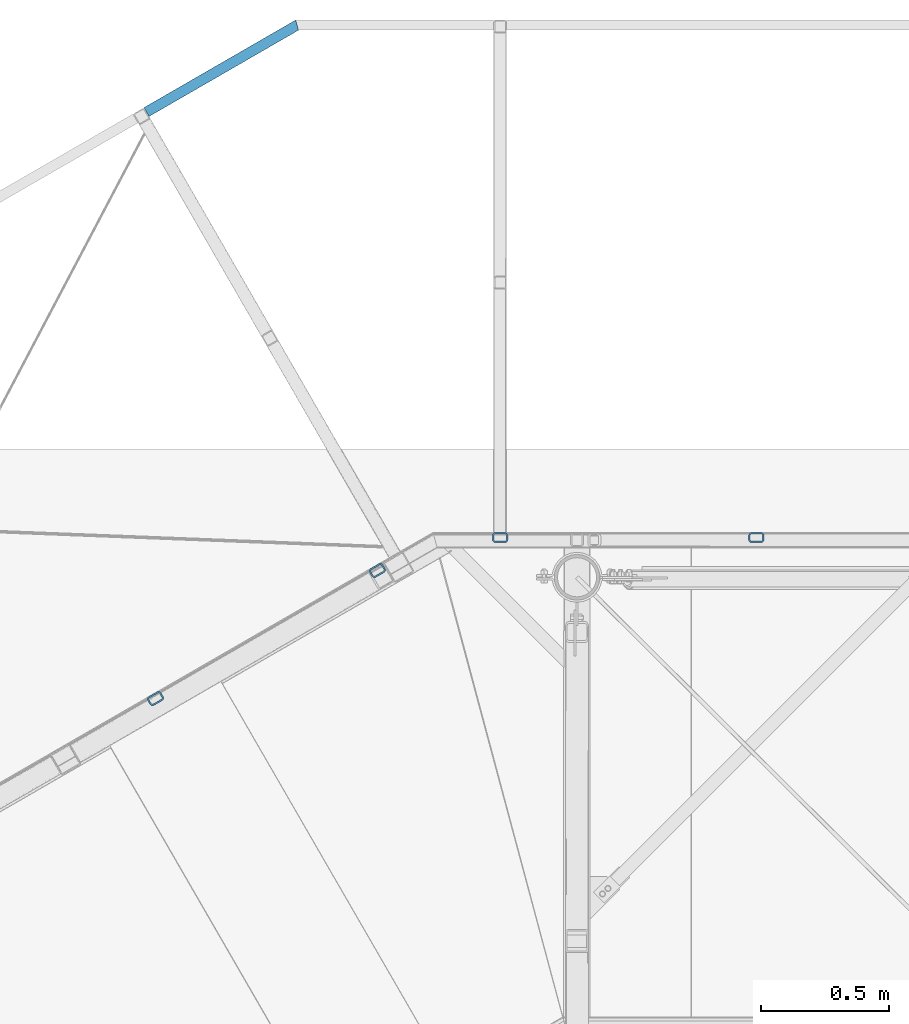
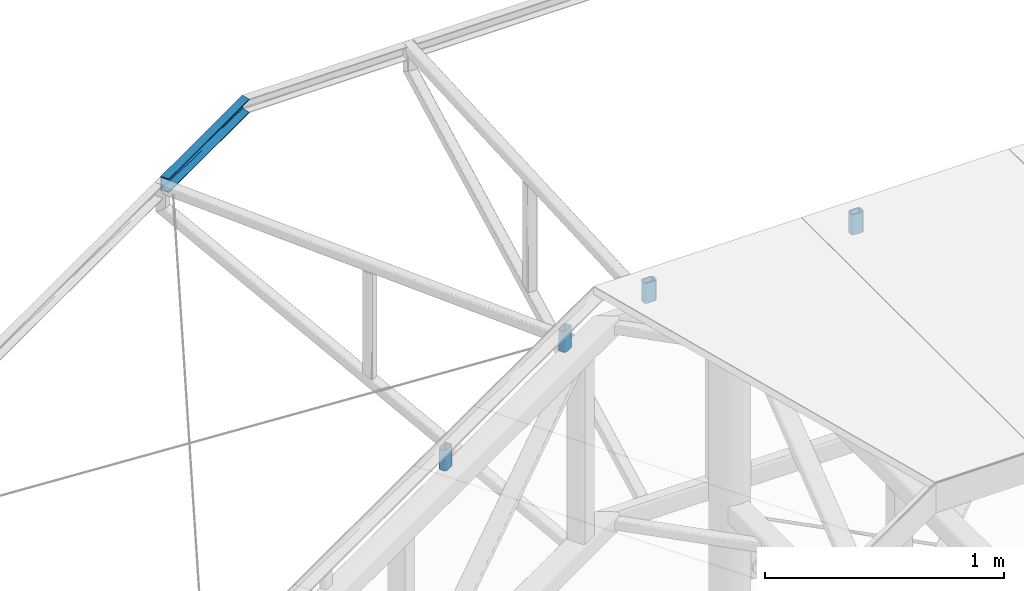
# One storey, part 27 of 132: 5 beams, 5 elements without a shape of their own.
"""IFC2X3 building model written with IfcOpenShell, lengths in millimetres."""

from ifc_helpers import new_model, si_unit, frame, origin_with_axes, origin_2d_with_axis, place, context, subcontext, project, spatial, hollow_rectangle, u_section, extrude, clip, halfspace, material, type_object, element, aggregate, save


model = new_model("IFC2X3")

# Units and contexts
model_context = context("Model", 3, precision=1e-05, world=origin_with_axes())
body_context = subcontext(model_context, "Body", "Model", "MODEL_VIEW")
ifc_project = project(units=[si_unit("LENGTHUNIT", "METRE", prefix="MILLI"), si_unit("AREAUNIT", "SQUARE_METRE"), si_unit("VOLUMEUNIT", "CUBIC_METRE"), si_unit("MASSUNIT", "GRAM", prefix="KILO"), si_unit("TIMEUNIT", "SECOND"), si_unit("PLANEANGLEUNIT", "RADIAN"), si_unit("SOLIDANGLEUNIT", "STERADIAN"), si_unit("THERMODYNAMICTEMPERATUREUNIT", "DEGREE_CELSIUS"), si_unit("LUMINOUSINTENSITYUNIT", "LUMEN")], contexts=[model_context])

# Site, building, storey
site_placement = place(None, origin_with_axes())
site = spatial("IfcSite", under=ifc_project, at=site_placement, Name="Budowa", CompositionType="ELEMENT")
building_placement = place(site_placement, origin_with_axes())
building = spatial("IfcBuilding", under=site, at=building_placement, Name="Undefined", CompositionType="ELEMENT")
storey_placement = place(building_placement, origin_with_axes())
storey = spatial("IfcBuildingStorey", under=building, at=storey_placement, Name="Undefined", CompositionType="ELEMENT", Elevation=0.0)

# Assembly, beam
assembly_1_placement = place(storey_placement, origin_with_axes())
assembly_1 = element("IfcElementAssembly", 1, at=assembly_1_placement, inside=storey, Name="Steel Assembly", AssemblyPlace="NOTDEFINED", PredefinedType="RIGID_FRAME")
ifc_material = material(Name="STEEL/S235")
beam_type_1 = type_object("IfcBeamType", Name="RHS60*40*6", PredefinedType="NOTDEFINED")
beam_1_placement = place(assembly_1_placement, frame((8645.7680346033, 24026.6157937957, 13984.0000000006), z_axis=(0.866042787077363, 0.499969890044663, 0.0), x_axis=(0.0, 0.0, -1.0)))
beam_1 = element("IfcBeam", 2, at=beam_1_placement, type_object=beam_type_1, material=ifc_material, Name="BEAM", ObjectType="RHS60*40*6", context=body_context, shape_type="SweptSolid", body=[
    extrude(hollow_rectangle(XDim=40.0, YDim=60.0, WallThickness=6.0, InnerFilletRadius=6.0, OuterFilletRadius=12.0, at=origin_2d_with_axis()), frame((103.988921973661, 0.0, 0.0), z_axis=(-1.0, 0.0, 0.0), x_axis=(0.0, -1.0, 0.0)), (0.0, 0.0, 1.0), 103.99),
])
aggregate(assembly_1, [beam_1])

assembly_2_placement = place(storey_placement, origin_with_axes())
assembly_2 = element("IfcElementAssembly", 3, at=assembly_2_placement, inside=storey, Name="Steel Assembly", AssemblyPlace="NOTDEFINED", PredefinedType="RIGID_FRAME")
beam_2_placement = place(assembly_2_placement, frame((7779.72524758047, 23526.6459036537, 13984.0000000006), z_axis=(0.866042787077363, 0.499969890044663, 0.0), x_axis=(0.0, 0.0, -1.0)))
beam_2 = element("IfcBeam", 4, at=beam_2_placement, type_object=beam_type_1, material=ifc_material, Name="BEAM", ObjectType="RHS60*40*6", context=body_context, shape_type="SweptSolid", body=[
    extrude(hollow_rectangle(XDim=40.0, YDim=60.0, WallThickness=6.0, InnerFilletRadius=6.0, OuterFilletRadius=12.0, at=origin_2d_with_axis()), frame((103.988921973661, 0.0, 0.0), z_axis=(-1.0, 0.0, 0.0), x_axis=(0.0, -1.0, 0.0)), (0.0, 0.0, 1.0), 103.99),
])
aggregate(assembly_2, [beam_2])

assembly_3_placement = place(storey_placement, origin_with_axes())
assembly_3 = element("IfcElementAssembly", 5, at=assembly_3_placement, inside=storey, Name="Steel Assembly", AssemblyPlace="NOTDEFINED", PredefinedType="RIGID_FRAME")
beam_3_placement = place(assembly_3_placement, frame((9124.83823655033, 24154.8999999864, 13984.0000000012), z_axis=(1.0, 0.0, 0.0), x_axis=(0.0, 0.0, -1.0)))
beam_3 = element("IfcBeam", 6, at=beam_3_placement, type_object=beam_type_1, material=ifc_material, Name="BEAM", ObjectType="RHS60*40*6", context=body_context, shape_type="SweptSolid", body=[
    extrude(hollow_rectangle(XDim=40.0, YDim=60.0, WallThickness=6.0, InnerFilletRadius=6.0, OuterFilletRadius=12.0, at=origin_2d_with_axis()), frame((103.937991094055, 0.0, 0.0), z_axis=(-1.0, 0.0, 0.0), x_axis=(0.0, -1.0, 0.0)), (0.0, 0.0, 1.0), 103.94),
])
aggregate(assembly_3, [beam_3])

assembly_4_placement = place(storey_placement, origin_with_axes())
assembly_4 = element("IfcElementAssembly", 7, at=assembly_4_placement, inside=storey, Name="Steel Assembly", AssemblyPlace="NOTDEFINED", PredefinedType="RIGID_FRAME")
beam_4_placement = place(assembly_4_placement, frame((10124.838236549, 24154.8999999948, 13984.0000000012), z_axis=(1.0, 0.0, 0.0), x_axis=(0.0, 0.0, -1.0)))
beam_4 = element("IfcBeam", 8, at=beam_4_placement, type_object=beam_type_1, material=ifc_material, Name="BEAM", ObjectType="RHS60*40*6", context=body_context, shape_type="SweptSolid", body=[
    extrude(hollow_rectangle(XDim=40.0, YDim=60.0, WallThickness=6.0, InnerFilletRadius=6.0, OuterFilletRadius=12.0, at=origin_2d_with_axis()), frame((103.937991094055, 0.0, 0.0), z_axis=(-1.0, 0.0, 0.0), x_axis=(0.0, -1.0, 0.0)), (0.0, 0.0, 1.0), 103.94),
])
aggregate(assembly_4, [beam_4])

assembly_5_placement = place(storey_placement, origin_with_axes())
assembly_5 = element("IfcElementAssembly", 9, at=assembly_5_placement, inside=storey, Name="Steel Assembly", AssemblyPlace="NOTDEFINED", PredefinedType="RIGID_FRAME")
beam_type_2 = type_object("IfcBeamType", Name="C70*40*4", PredefinedType="NOTDEFINED")
beam_5_placement = place(assembly_5_placement, frame((8567.73070954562, 26290.8169664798, 13945.005019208), z_axis=(0.0, 0.0, -1.0), x_axis=(-0.866042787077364, -0.499969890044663, 0.0)))
beam_5 = element("IfcBeam", 10, at=beam_5_placement, type_object=beam_type_2, material=ifc_material, Name="BEAM", ObjectType="C70*40*4", context=body_context, shape_type="Clipping", body=[
    clip(extrude(u_section(Depth=70.0, FlangeWidth=40.0, WebThickness=4.0, FlangeThickness=4.0, FilletRadius=6.0, at=origin_2d_with_axis()), frame((950.000000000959, 1.82248795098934e-14, 0.0), z_axis=(-1.0, 0.0, 0.0), x_axis=(0.0, -1.0, 0.0)), (0.0, 0.0, 1.0), 710.63), halfspace(frame((266.290917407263, 20.0000000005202, 2.93021003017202e-08), z_axis=(0.965930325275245, 0.258802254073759, 0.0), x_axis=(0.0, 0.0, -1.0)), True)),
])
aggregate(assembly_5, [beam_5])

save(model, "model.ifc")
